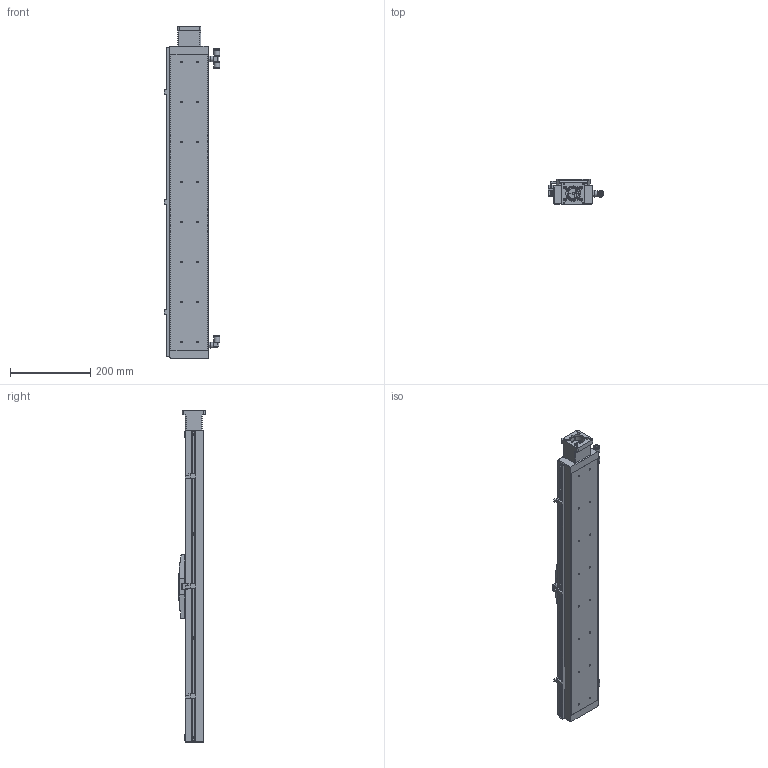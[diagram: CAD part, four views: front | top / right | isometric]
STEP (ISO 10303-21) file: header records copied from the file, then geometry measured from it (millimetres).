
FILE_DESCRIPTION((''),'2;1');
FILE_NAME('E:\libraries\UIA actuator library 2016\Clean room actuator\UIA098CR12DC\UIA098CR12 stp file 05May16\UIA098CR12DC-550-R16_ _-M23-P13-C10-S.stp','2016-05-09T15:06:49',('h029'),(''),'Autodesk Inventor 11','Autodesk Inventor 11','');
FILE_SCHEMA(('AUTOMOTIVE_DESIGN { 1 0 10303 214 1 1 1 1 }'));
Length unit declared in the file: millimetre
Products named in the file (12): UIA098CR12DC-550; body, UIA098CR12DC-550; carriage, UIA098CR12DC; Sensor Switch, UIA098CR12DC; SOH-25C; SOH-25C-2; SOH-25C-3; SOH-25C-1; Motor mount; Sensor Rail, UIA098CR12DC-550_MIR; vacuum port 1, UIA098CR12DC_MIR; vacuum port 2, UIA098CR12DC_MIR
Assembly tree (11 placements, depth 3):
  UIA098CR12DC-550
    body, UIA098CR12DC-550
    carriage, UIA098CR12DC
    Sensor Switch, UIA098CR12DC
    SOH-25C
      SOH-25C-2
      SOH-25C-3
      SOH-25C-1
    Motor mount
    Sensor Rail, UIA098CR12DC-550_MIR
    vacuum port 1, UIA098CR12DC_MIR
    vacuum port 2, UIA098CR12DC_MIR
Bounding box: 138.4 x 65.5 x 830 mm (x, y, z)
Volume: 3752418.2 mm3; surface area: 363593.8 mm2
Topology: 10 solids, 10 shells, 686 faces, 1779 edges, 1160 vertices
Faces by surface type: bspline 300, plane 295, cylinder 87, cone 4
Full cylindrical faces by diameter (mm): 3.5 x4, 5.6 x8, 8 x4, 9 x2, 10 x1, 13 x1, 15 x2, 18 x1, 25.5 x3, 37 x1, 38.1 x1
Entity records: 22249 total; most frequent: CARTESIAN_POINT 6604, ORIENTED_EDGE 3174, DIRECTION 2787, EDGE_CURVE 1587, VECTOR 1139, LINE 1139, VERTEX_POINT 1101, EDGE_LOOP 952
